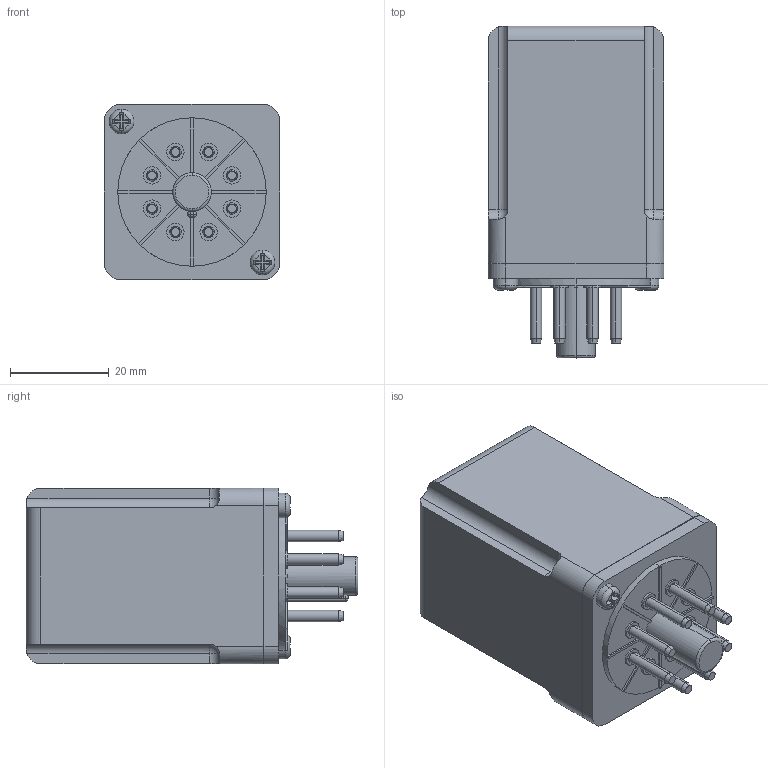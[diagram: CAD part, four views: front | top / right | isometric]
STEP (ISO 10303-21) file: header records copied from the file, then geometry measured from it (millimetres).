
FILE_DESCRIPTION (( 'STEP AP203' ), '1' );
FILE_NAME ('OP2RC2.STEP', '2019-07-05T17:34:27', ( '' ), ( '' ), 'SwSTEP 2.0', 'SolidWorks 2012', '' );
FILE_SCHEMA (( 'CONFIG_CONTROL_DESIGN' ));
Length unit declared in the file: millimetre
Products named in the file (1): OP2RC2
Bounding box: 35.5 x 67.1 x 35.5 mm (x, y, z)
Volume: 63721.7 mm3; surface area: 13180.2 mm2
Topology: 1 solids, 1 shells, 210 faces, 527 edges, 334 vertices
Faces by surface type: plane 111, cylinder 71, cone 16, torus 6, sphere 6
Entity records: 6444 total; most frequent: CARTESIAN_POINT 1276, DIRECTION 1101, ORIENTED_EDGE 1042, EDGE_CURVE 521, AXIS2_PLACEMENT_3D 415, VERTEX_POINT 334, VECTOR 271, LINE 271
